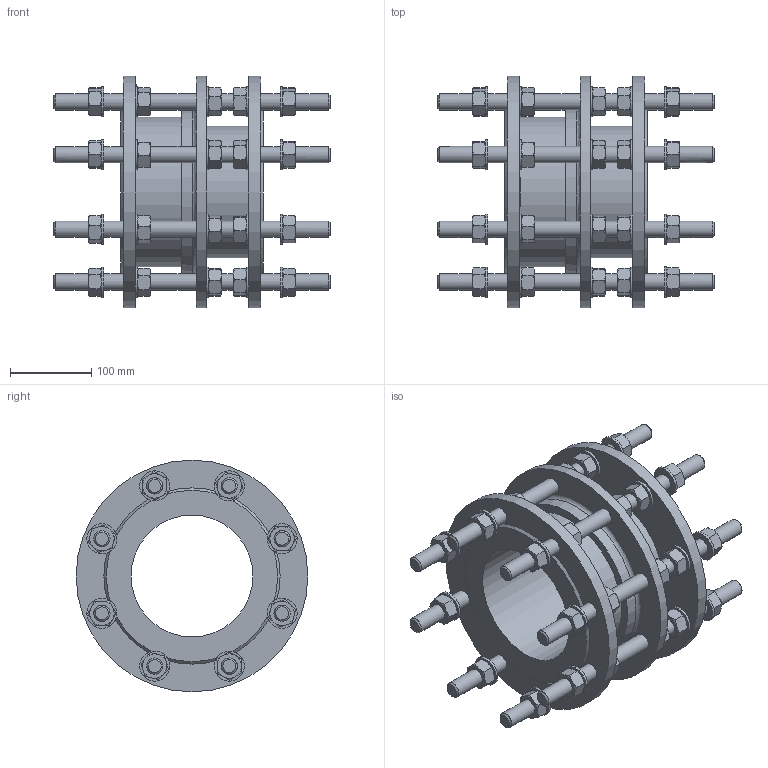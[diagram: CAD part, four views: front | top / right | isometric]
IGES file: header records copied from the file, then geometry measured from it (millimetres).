
Start section: SolidWorks IGES file using analytic representation for surfaces
Global section: file name: \\avksan2\techshare\PBM outline export from Enovia\O_265_910_DN150_1XXXXX00_L=175_REV01.igs; native system: SolidWorks 2022; preprocessor: SolidWorks 2022; author: pbm; date: 241011.101813; units: millimetre
Bounding box: 340 x 285 x 285 mm (x, y, z)
Surface area: 642682.1 mm2 (no closed solid volume)
Topology: 0 solids, 0 shells, 996 faces, 4170 edges, 4056 vertices
Faces by surface type: revolution 596, bspline 400
